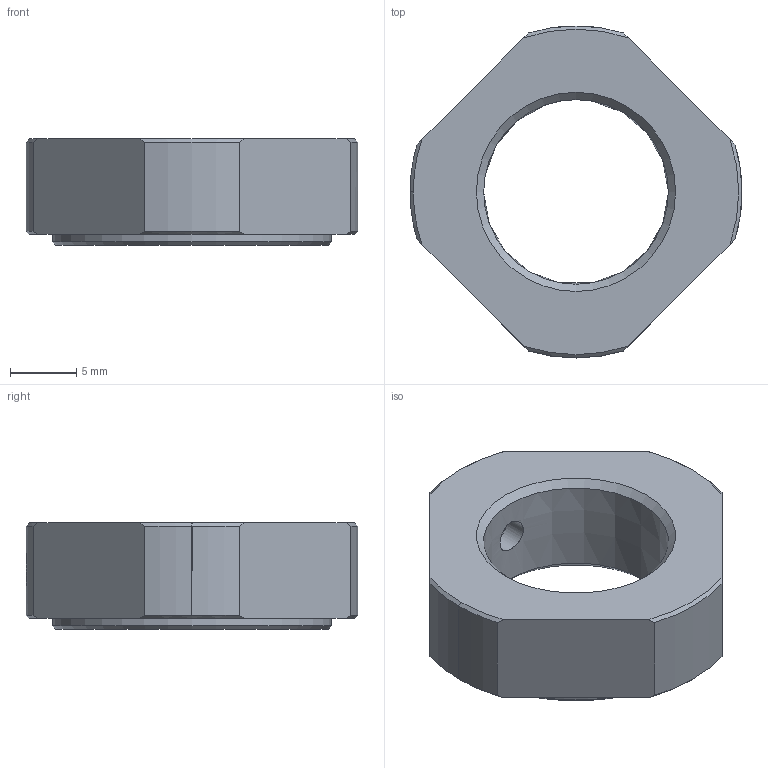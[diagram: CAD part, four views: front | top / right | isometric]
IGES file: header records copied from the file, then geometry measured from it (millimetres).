
Start section: Data from Parasolid IGES Translator 26.0.171, Copyright(c) 2006 Siemens PLM Software. All Rights Reserved.
Global section: file name: RN 15.igs; native system: By Siemens PLM Incorporated; preprocessor: XPlus GENERIC/IGES 26.0.171; author: Noname; organization: Noname; date: 20250611.074142; units: millimetre
Bounding box: 25 x 25 x 8 mm (x, y, z)
Surface area: 1512.3 mm2 (no closed solid volume)
Topology: 0 solids, 0 shells, 39 faces, 202 edges, 198 vertices
Faces by surface type: revolution 23, extrusion 16
